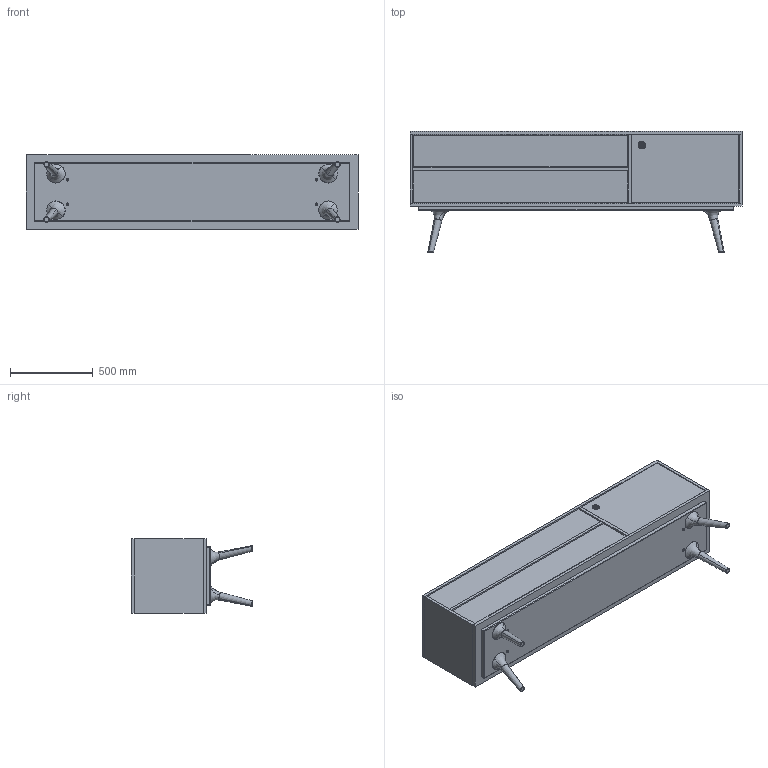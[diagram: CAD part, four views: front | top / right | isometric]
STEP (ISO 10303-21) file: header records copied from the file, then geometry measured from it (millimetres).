
FILE_DESCRIPTION (( 'STEP AP214' ), '1' );
FILE_NAME ('Zio Buffet.STEP', '2014-08-27T08:43:57', ( '' ), ( '' ), 'SwSTEP 2.0', 'SolidWorks 2014', '' );
FILE_SCHEMA (( 'AUTOMOTIVE_DESIGN' ));
Length unit declared in the file: millimetre
Products named in the file (1): Zio Buffet
Bounding box: 2000 x 729 x 450 mm (x, y, z)
Volume: 82049074.8 mm3; surface area: 10641902.5 mm2
Topology: 21 solids, 21 shells, 1185 faces, 3178 edges, 2086 vertices
Faces by surface type: bspline 762, plane 231, cylinder 138, cone 36, torus 10, sphere 8
Entity records: 58245 total; most frequent: CARTESIAN_POINT 20438, ORIENTED_EDGE 6340, EDGE_CURVE 3170, DIRECTION 2794, VERTEX_POINT 2086, B_SPLINE_CURVE_WITH_KNOTS 1578, EDGE_LOOP 1276, LINE 1222
